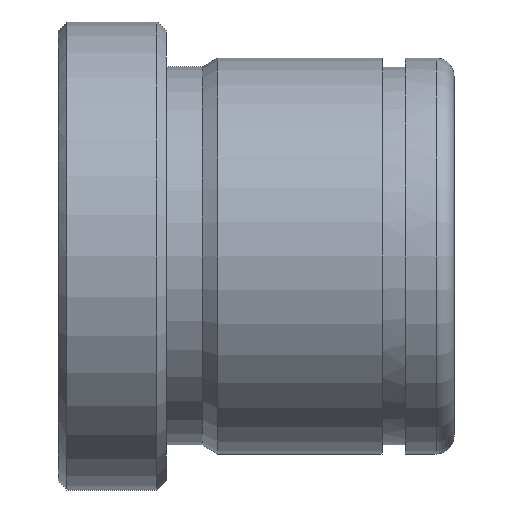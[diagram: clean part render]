
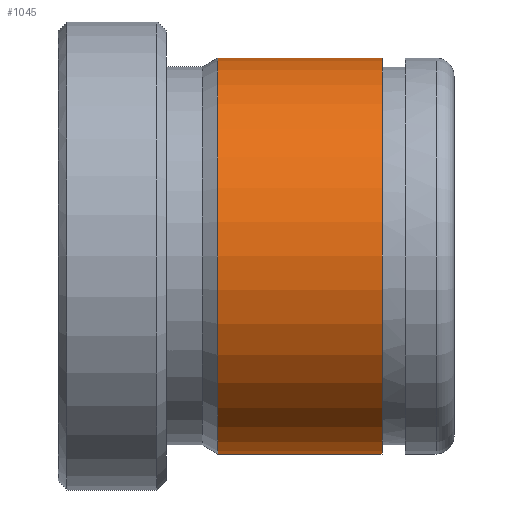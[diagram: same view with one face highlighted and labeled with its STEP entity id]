
A CAD part, front view. The second image highlights one B-rep face of the part: STEP entity #1045.
In plain terms, the highlighted cylindrical face has radius 11 mm (diameter 22 mm), a partial arc.
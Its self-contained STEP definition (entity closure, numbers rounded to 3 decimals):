
#851=CARTESIAN_POINT('Vertex',(8.866,0.,-11.)) ;
#858=CARTESIAN_POINT('Vertex',(8.866,0.,11.)) ;
#887=CARTESIAN_POINT('Axis2P3D Location',(8.866,0.,0.)) ;
#891=CARTESIAN_POINT('Vertex',(8.866,-11.,0.)) ;
#894=CARTESIAN_POINT('Axis2P3D Location',(8.866,0.,0.)) ;
#985=CARTESIAN_POINT('Line Origine',(44.,0.,11.)) ;
#989=CARTESIAN_POINT('Vertex',(18.,0.,11.)) ;
#1003=CARTESIAN_POINT('Vertex',(18.,0.,-11.)) ;
#1006=CARTESIAN_POINT('Line Origine',(44.,0.,-11.)) ;
#1020=CARTESIAN_POINT('Axis2P3D Location',(44.,0.,0.)) ;
#1025=CARTESIAN_POINT('Axis2P3D Location',(18.,0.,0.)) ;
#1029=CARTESIAN_POINT('Vertex',(18.,-11.,0.)) ;
#1032=CARTESIAN_POINT('Axis2P3D Location',(18.,0.,0.)) ;
#888=DIRECTION('Axis2P3D Direction',(1.,0.,-0.)) ;
#895=DIRECTION('Axis2P3D Direction',(1.,0.,-0.)) ;
#986=DIRECTION('Vector Direction',(-1.,0.,0.)) ;
#1007=DIRECTION('Vector Direction',(-1.,0.,0.)) ;
#1021=DIRECTION('Axis2P3D Direction',(-1.,-0.,-0.)) ;
#1022=DIRECTION('Axis2P3D XDirection',(0.,0.,-1.)) ;
#1026=DIRECTION('Axis2P3D Direction',(-1.,-0.,-0.)) ;
#1033=DIRECTION('Axis2P3D Direction',(-1.,-0.,-0.)) ;
#889=AXIS2_PLACEMENT_3D('Circle Axis2P3D',#887,#888,$) ;
#896=AXIS2_PLACEMENT_3D('Circle Axis2P3D',#894,#895,$) ;
#1023=AXIS2_PLACEMENT_3D('Cylinder Axis2P3D',#1020,#1021,#1022) ;
#1027=AXIS2_PLACEMENT_3D('Circle Axis2P3D',#1025,#1026,$) ;
#1034=AXIS2_PLACEMENT_3D('Circle Axis2P3D',#1032,#1033,$) ;
#1038=ORIENTED_EDGE('',*,*,#1010,.T.) ;
#1039=ORIENTED_EDGE('',*,*,#1031,.F.) ;
#1040=ORIENTED_EDGE('',*,*,#1036,.F.) ;
#1041=ORIENTED_EDGE('',*,*,#991,.T.) ;
#1042=ORIENTED_EDGE('',*,*,#898,.T.) ;
#1043=ORIENTED_EDGE('',*,*,#893,.T.) ;
#987=VECTOR('Line Direction',#986,1.) ;
#1008=VECTOR('Line Direction',#1007,1.) ;
#1045=ADVANCED_FACE('553-16X22',(#1044),#1024,.T.) ;
#890=CIRCLE('generated circle',#889,11.) ;
#897=CIRCLE('generated circle',#896,11.) ;
#1028=CIRCLE('generated circle',#1027,11.) ;
#1035=CIRCLE('generated circle',#1034,11.) ;
#1024=CYLINDRICAL_SURFACE('generated cylinder',#1023,11.) ;
#893=EDGE_CURVE('',#892,#852,#890,.T.) ;
#898=EDGE_CURVE('',#859,#892,#897,.T.) ;
#991=EDGE_CURVE('',#990,#859,#988,.T.) ;
#1010=EDGE_CURVE('',#852,#1004,#1009,.F.) ;
#1031=EDGE_CURVE('',#1030,#1004,#1028,.F.) ;
#1036=EDGE_CURVE('',#990,#1030,#1035,.F.) ;
#1037=EDGE_LOOP('',(#1038,#1039,#1040,#1041,#1042,#1043)) ;
#1044=FACE_OUTER_BOUND('',#1037,.T.) ;
#988=LINE('Line',#985,#987) ;
#1009=LINE('Line',#1006,#1008) ;
#852=VERTEX_POINT('',#851) ;
#859=VERTEX_POINT('',#858) ;
#892=VERTEX_POINT('',#891) ;
#990=VERTEX_POINT('',#989) ;
#1004=VERTEX_POINT('',#1003) ;
#1030=VERTEX_POINT('',#1029) ;
